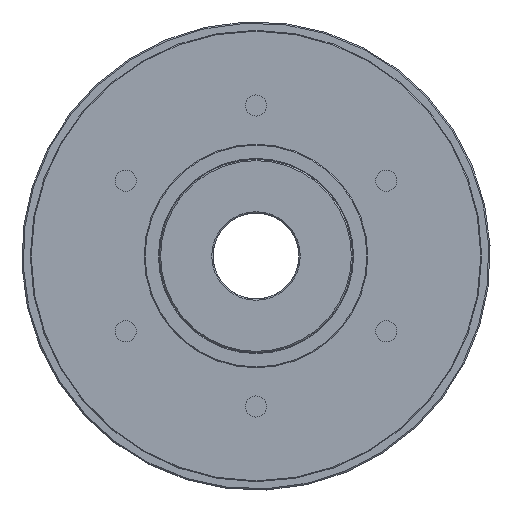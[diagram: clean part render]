
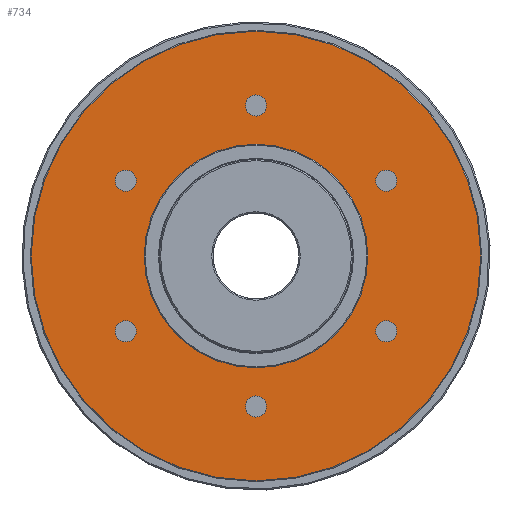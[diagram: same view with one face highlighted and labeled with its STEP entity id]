
A CAD part, left-side view. The second image highlights one B-rep face of the part: STEP entity #734.
In plain terms, the highlighted planar face has unit normal (-1, 0, 0).
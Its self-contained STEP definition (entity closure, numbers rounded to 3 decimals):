
#734 = ADVANCED_FACE( '', ( #1484, #1485, #1486, #1487, #1488, #1489, #1490, #1491 ), #1492, .T. );
#1484 = FACE_BOUND( '', #2188, .T. );
#1485 = FACE_BOUND( '', #2189, .T. );
#1486 = FACE_BOUND( '', #2190, .T. );
#1487 = FACE_BOUND( '', #2191, .T. );
#1488 = FACE_BOUND( '', #2192, .T. );
#1489 = FACE_BOUND( '', #2193, .T. );
#1490 = FACE_OUTER_BOUND( '', #2194, .T. );
#1491 = FACE_BOUND( '', #2195, .T. );
#1492 = PLANE( '', #2196 );
#2188 = EDGE_LOOP( '', ( #3292 ) );
#2189 = EDGE_LOOP( '', ( #3293 ) );
#2190 = EDGE_LOOP( '', ( #3294 ) );
#2191 = EDGE_LOOP( '', ( #3295 ) );
#2192 = EDGE_LOOP( '', ( #3296 ) );
#2193 = EDGE_LOOP( '', ( #3297 ) );
#2194 = EDGE_LOOP( '', ( #3298 ) );
#2195 = EDGE_LOOP( '', ( #3299 ) );
#2196 = AXIS2_PLACEMENT_3D( '', #3300, #3301, #3302 );
#3292 = ORIENTED_EDGE( '', *, *, #3616, .T. );
#3293 = ORIENTED_EDGE( '', *, *, #3728, .T. );
#3294 = ORIENTED_EDGE( '', *, *, #3614, .T. );
#3295 = ORIENTED_EDGE( '', *, *, #3681, .T. );
#3296 = ORIENTED_EDGE( '', *, *, #3470, .T. );
#3297 = ORIENTED_EDGE( '', *, *, #3429, .T. );
#3298 = ORIENTED_EDGE( '', *, *, #3671, .T. );
#3299 = ORIENTED_EDGE( '', *, *, #3678, .F. );
#3300 = CARTESIAN_POINT( '', ( 21.5, 0., 26. ) );
#3301 = DIRECTION( '', ( -1., 0., 0. ) );
#3302 = DIRECTION( '', ( 0., 0., 1. ) );
#3429 = EDGE_CURVE( '', #3878, #3878, #3879, .T. );
#3470 = EDGE_CURVE( '', #3948, #3948, #3949, .T. );
#3614 = EDGE_CURVE( '', #4161, #4161, #4162, .T. );
#3616 = EDGE_CURVE( '', #4164, #4164, #4165, .T. );
#3671 = EDGE_CURVE( '', #4242, #4242, #4243, .T. );
#3678 = EDGE_CURVE( '', #4250, #4250, #4251, .T. );
#3681 = EDGE_CURVE( '', #4254, #4254, #4255, .T. );
#3728 = EDGE_CURVE( '', #4313, #4313, #4314, .T. );
#3878 = VERTEX_POINT( '', #4495 );
#3879 = CIRCLE( '', #4496, 2.459 );
#3948 = VERTEX_POINT( '', #4571 );
#3949 = CIRCLE( '', #4572, 2.459 );
#4161 = VERTEX_POINT( '', #5085 );
#4162 = CIRCLE( '', #5086, 2.459 );
#4164 = VERTEX_POINT( '', #5088 );
#4165 = CIRCLE( '', #5089, 2.459 );
#4242 = VERTEX_POINT( '', #5272 );
#4243 = CIRCLE( '', #5273, 52.3 );
#4250 = VERTEX_POINT( '', #5286 );
#4251 = CIRCLE( '', #5287, 26. );
#4254 = VERTEX_POINT( '', #5290 );
#4255 = CIRCLE( '', #5291, 2.459 );
#4313 = VERTEX_POINT( '', #5356 );
#4314 = CIRCLE( '', #5357, 2.459 );
#4495 = CARTESIAN_POINT( '', ( 21.5, 0., 37.459 ) );
#4496 = AXIS2_PLACEMENT_3D( '', #5513, #5514, #5515 );
#4571 = CARTESIAN_POINT( '', ( 21.5, -32.44, 18.729 ) );
#4572 = AXIS2_PLACEMENT_3D( '', #5597, #5598, #5599 );
#5085 = CARTESIAN_POINT( '', ( 21.5, 0., -37.459 ) );
#5086 = AXIS2_PLACEMENT_3D( '', #5781, #5782, #5783 );
#5088 = CARTESIAN_POINT( '', ( 21.5, 32.44, 18.729 ) );
#5089 = AXIS2_PLACEMENT_3D( '', #5784, #5785, #5786 );
#5272 = CARTESIAN_POINT( '', ( 21.5, 0., 52.3 ) );
#5273 = AXIS2_PLACEMENT_3D( '', #5857, #5858, #5859 );
#5286 = CARTESIAN_POINT( '', ( 21.5, 0., 26. ) );
#5287 = AXIS2_PLACEMENT_3D( '', #5860, #5861, #5862 );
#5290 = CARTESIAN_POINT( '', ( 21.5, -32.44, -18.729 ) );
#5291 = AXIS2_PLACEMENT_3D( '', #5863, #5864, #5865 );
#5356 = CARTESIAN_POINT( '', ( 21.5, 32.44, -18.729 ) );
#5357 = AXIS2_PLACEMENT_3D( '', #5900, #5901, #5902 );
#5513 = CARTESIAN_POINT( '', ( 21.5, 0., 35. ) );
#5514 = DIRECTION( '', ( 1., 0., 0. ) );
#5515 = DIRECTION( '', ( 0., 0., 1. ) );
#5597 = CARTESIAN_POINT( '', ( 21.5, -30.311, 17.5 ) );
#5598 = DIRECTION( '', ( 1., 0., 0. ) );
#5599 = DIRECTION( '', ( 0., -0.866, 0.5 ) );
#5781 = CARTESIAN_POINT( '', ( 21.5, 0., -35. ) );
#5782 = DIRECTION( '', ( 1., 0., 0. ) );
#5783 = DIRECTION( '', ( 0., 0., -1. ) );
#5784 = CARTESIAN_POINT( '', ( 21.5, 30.311, 17.5 ) );
#5785 = DIRECTION( '', ( 1., 0., 0. ) );
#5786 = DIRECTION( '', ( 0., 0.866, 0.5 ) );
#5857 = CARTESIAN_POINT( '', ( 21.5, 0., 0. ) );
#5858 = DIRECTION( '', ( -1., 0., 0. ) );
#5859 = DIRECTION( '', ( 0., 0., 1. ) );
#5860 = CARTESIAN_POINT( '', ( 21.5, 0., 0. ) );
#5861 = DIRECTION( '', ( -1., 0., 0. ) );
#5862 = DIRECTION( '', ( 0., 0., 1. ) );
#5863 = CARTESIAN_POINT( '', ( 21.5, -30.311, -17.5 ) );
#5864 = DIRECTION( '', ( 1., 0., 0. ) );
#5865 = DIRECTION( '', ( 0., -0.866, -0.5 ) );
#5900 = CARTESIAN_POINT( '', ( 21.5, 30.311, -17.5 ) );
#5901 = DIRECTION( '', ( 1., 0., 0. ) );
#5902 = DIRECTION( '', ( 0., 0.866, -0.5 ) );
